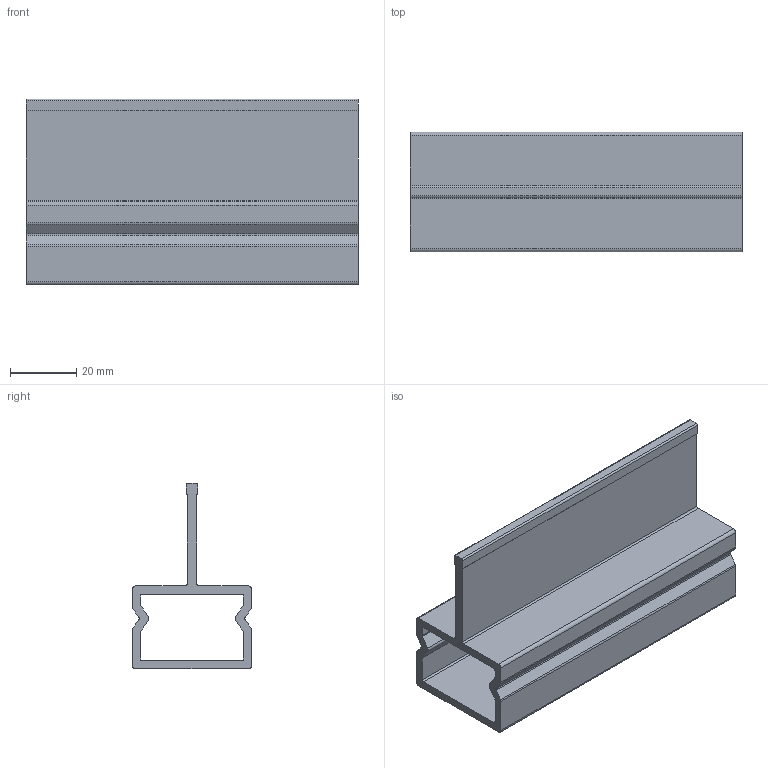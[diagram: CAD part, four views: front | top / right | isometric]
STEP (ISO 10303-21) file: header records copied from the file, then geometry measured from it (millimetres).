
FILE_DESCRIPTION (( 'STEP AP203' ), '1' );
FILE_NAME ('800.029.007.STEP', '2013-01-21T12:40:26', ( '' ), ( '' ), 'SwSTEP 2.0', 'SolidWorks 2011', '' );
FILE_SCHEMA (( 'CONFIG_CONTROL_DESIGN' ));
Length unit declared in the file: millimetre
Products named in the file (1): 800.029.007
Bounding box: 100 x 36 x 56 mm (x, y, z)
Volume: 38164.2 mm3; surface area: 29672.7 mm2
Topology: 1 solids, 1 shells, 54 faces, 156 edges, 104 vertices
Faces by surface type: plane 30, cylinder 24
Entity records: 1869 total; most frequent: CARTESIAN_POINT 315, DIRECTION 314, ORIENTED_EDGE 312, EDGE_CURVE 156, LINE 108, VECTOR 108, VERTEX_POINT 104, AXIS2_PLACEMENT_3D 103
